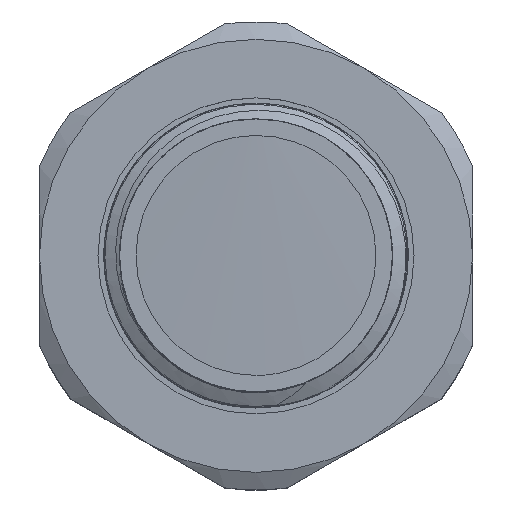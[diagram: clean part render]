
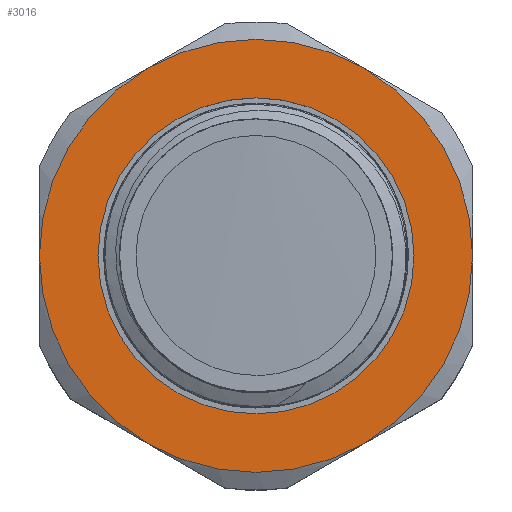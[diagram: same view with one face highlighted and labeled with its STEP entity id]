
A CAD part, top view. The second image highlights one B-rep face of the part: STEP entity #3016.
In plain terms, the highlighted planar face has unit normal (0, 0, 1).
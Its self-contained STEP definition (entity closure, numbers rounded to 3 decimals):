
#148=FACE_BOUND('',#700,.T.);
#345=PLANE('',#3351);
#511=FACE_OUTER_BOUND('',#699,.T.);
#699=EDGE_LOOP('',(#2813,#2814,#2815,#2816,#2817,#2818));
#700=EDGE_LOOP('',(#2819,#2820));
#1138=CIRCLE('',#3308,18.5);
#1140=CIRCLE('',#3311,18.5);
#1141=CIRCLE('',#3313,18.5);
#1143=CIRCLE('',#3316,18.5);
#1145=CIRCLE('',#3319,18.5);
#1147=CIRCLE('',#3322,18.5);
#1154=CIRCLE('',#3345,13.5);
#1157=CIRCLE('',#3348,13.5);
#1432=VERTEX_POINT('',#16714);
#1434=VERTEX_POINT('',#16720);
#1436=VERTEX_POINT('',#16727);
#1439=VERTEX_POINT('',#16742);
#1442=VERTEX_POINT('',#16754);
#1445=VERTEX_POINT('',#16766);
#1461=VERTEX_POINT('',#19134);
#1462=VERTEX_POINT('',#19135);
#1851=EDGE_CURVE('',#1432,#1434,#1138,.T.);
#1855=EDGE_CURVE('',#1436,#1432,#1140,.T.);
#1857=EDGE_CURVE('',#1439,#1436,#1141,.T.);
#1861=EDGE_CURVE('',#1442,#1439,#1143,.T.);
#1865=EDGE_CURVE('',#1445,#1442,#1145,.T.);
#1869=EDGE_CURVE('',#1434,#1445,#1147,.T.);
#1912=EDGE_CURVE('',#1461,#1462,#1154,.T.);
#1916=EDGE_CURVE('',#1462,#1461,#1157,.T.);
#2813=ORIENTED_EDGE('',*,*,#1869,.T.);
#2814=ORIENTED_EDGE('',*,*,#1865,.T.);
#2815=ORIENTED_EDGE('',*,*,#1861,.T.);
#2816=ORIENTED_EDGE('',*,*,#1857,.T.);
#2817=ORIENTED_EDGE('',*,*,#1855,.T.);
#2818=ORIENTED_EDGE('',*,*,#1851,.T.);
#2819=ORIENTED_EDGE('',*,*,#1912,.F.);
#2820=ORIENTED_EDGE('',*,*,#1916,.F.);
#3016=ADVANCED_FACE('',(#511,#148),#345,.T.);
#3308=AXIS2_PLACEMENT_3D('',#16724,#3919,#3920);
#3311=AXIS2_PLACEMENT_3D('',#16736,#3925,#3926);
#3313=AXIS2_PLACEMENT_3D('',#16743,#3929,#3930);
#3316=AXIS2_PLACEMENT_3D('',#16755,#3935,#3936);
#3319=AXIS2_PLACEMENT_3D('',#16767,#3941,#3942);
#3322=AXIS2_PLACEMENT_3D('',#16778,#3947,#3948);
#3345=AXIS2_PLACEMENT_3D('',#19136,#4013,#4014);
#3348=AXIS2_PLACEMENT_3D('',#19142,#4020,#4021);
#3351=AXIS2_PLACEMENT_3D('',#19145,#4026,#4027);
#3919=DIRECTION('center_axis',(0.,0.,1.));
#3920=DIRECTION('ref_axis',(0.,1.,0.));
#3925=DIRECTION('center_axis',(0.,0.,1.));
#3926=DIRECTION('ref_axis',(0.,1.,0.));
#3929=DIRECTION('center_axis',(0.,0.,1.));
#3930=DIRECTION('ref_axis',(0.,1.,0.));
#3935=DIRECTION('center_axis',(0.,0.,1.));
#3936=DIRECTION('ref_axis',(0.,1.,0.));
#3941=DIRECTION('center_axis',(0.,0.,1.));
#3942=DIRECTION('ref_axis',(0.,1.,0.));
#3947=DIRECTION('center_axis',(0.,0.,1.));
#3948=DIRECTION('ref_axis',(0.,1.,0.));
#4013=DIRECTION('center_axis',(0.,0.,1.));
#4014=DIRECTION('ref_axis',(1.,0.,0.));
#4020=DIRECTION('center_axis',(0.,0.,1.));
#4021=DIRECTION('ref_axis',(1.,0.,0.));
#4026=DIRECTION('center_axis',(0.,0.,1.));
#4027=DIRECTION('ref_axis',(1.,0.,0.));
#16714=CARTESIAN_POINT('',(9.25,-16.021,13.5));
#16720=CARTESIAN_POINT('',(18.5,0.,13.5));
#16724=CARTESIAN_POINT('Origin',(0.,0.,13.5));
#16727=CARTESIAN_POINT('',(-9.25,-16.021,13.5));
#16736=CARTESIAN_POINT('Origin',(0.,0.,13.5));
#16742=CARTESIAN_POINT('',(-18.5,0.,13.5));
#16743=CARTESIAN_POINT('Origin',(0.,0.,13.5));
#16754=CARTESIAN_POINT('',(-9.25,16.021,13.5));
#16755=CARTESIAN_POINT('Origin',(0.,0.,13.5));
#16766=CARTESIAN_POINT('',(9.25,16.021,13.5));
#16767=CARTESIAN_POINT('Origin',(0.,0.,13.5));
#16778=CARTESIAN_POINT('Origin',(0.,0.,13.5));
#19134=CARTESIAN_POINT('',(0.,-13.5,13.5));
#19135=CARTESIAN_POINT('',(0.,13.5,13.5));
#19136=CARTESIAN_POINT('Origin',(0.,0.,13.5));
#19142=CARTESIAN_POINT('Origin',(0.,0.,13.5));
#19145=CARTESIAN_POINT('Origin',(0.,-13.5,13.5));
